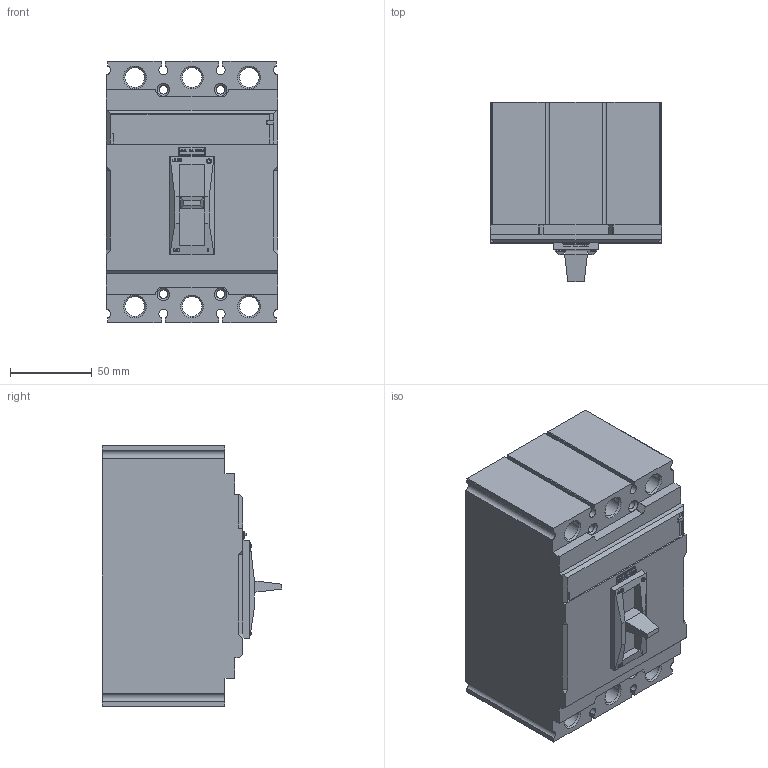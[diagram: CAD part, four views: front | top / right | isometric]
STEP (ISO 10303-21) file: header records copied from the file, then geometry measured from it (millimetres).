
FILE_DESCRIPTION(/* description */ ('','CAx-IF Rec.Pracs.---Representation and Presentation of Product Manufacturing Information (PMI)---3.8---2014-02-18'),/* implementation_level */ '2;1');
FILE_NAME(/* name */ 'E:\3D model\36-susol-mccb-250af-iec-2p3p.stp',/* time_stamp */ '2017-11-09T14:50:35+03:00',/* author */ ('dobrin'),/* organization */ (''),/* preprocessor_version */ 'ST-DEVELOPER v16.13',/* originating_system */ 'Autodesk Inventor 2018',/* authorisation */ '');
FILE_SCHEMA (('AP242_MANAGED_MODEL_BASED_3D_ENGINEERING_MIM_LF { 1 0 10303 442 1 1 4 }'));
Length unit declared in the file: metre
Products named in the file (1): 36-susol-mccb-250af-iec-2p3p
Bounding box: 105 x 109.7 x 160 mm (x, y, z)
Volume: 1322099.5 mm3; surface area: 106422.6 mm2
Topology: 1 solids, 1 shells, 531 faces, 1492 edges, 990 vertices
Faces by surface type: plane 479, cylinder 42, cone 10
Full cylindrical faces by diameter (mm): 2 x1, 3 x1, 5.2 x4, 12 x6
Entity records: 16774 total; most frequent: CARTESIAN_POINT 2985, ORIENTED_EDGE 2908, DIRECTION 2646, EDGE_CURVE 1454, LINE 1360, VECTOR 1360, VERTEX_POINT 974, AXIS2_PLACEMENT_3D 647
